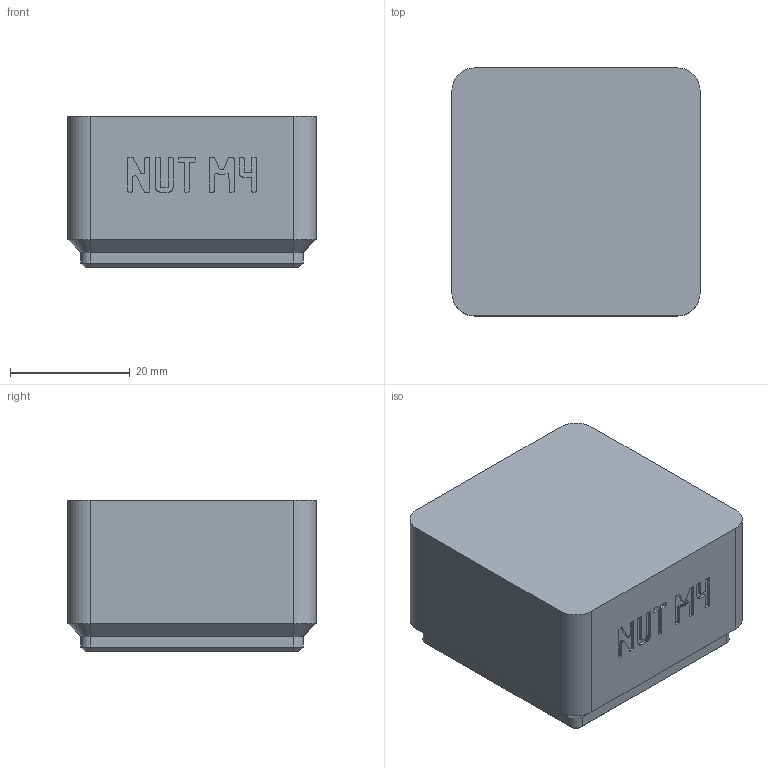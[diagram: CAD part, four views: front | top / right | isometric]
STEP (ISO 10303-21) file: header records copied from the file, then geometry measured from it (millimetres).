
FILE_DESCRIPTION(('Open CASCADE Model'),'2;1');
FILE_NAME('Open CASCADE Shape Model','2026-11-03T16:22:32',('Author'),( 'Open CASCADE'),'Open CASCADE STEP processor 8.0','build123d', 'Unknown');
FILE_SCHEMA(('AUTOMOTIVE_DESIGN { 1 0 10303 214 1 1 1 1 }'));
Products named in the file (1): COMPOUND
Bounding box: 41.5 x 41.5 x 25.4 mm (x, y, z)
Volume: 14675.5 mm3; surface area: 13539.9 mm2
Topology: 1 solids, 2 shells, 907 faces, 2636 edges, 1744 vertices
Faces by surface type: plane 871, cylinder 16, cone 12, bspline 8
Entity records: 63494 total; most frequent: CARTESIAN_POINT 10824, DIRECTION 9608, LINE 7704, VECTOR 7704, ORIENTED_EDGE 5272, PCURVE 5272, DEFINITIONAL_REPRESENTATION 5272, EDGE_CURVE 2636
